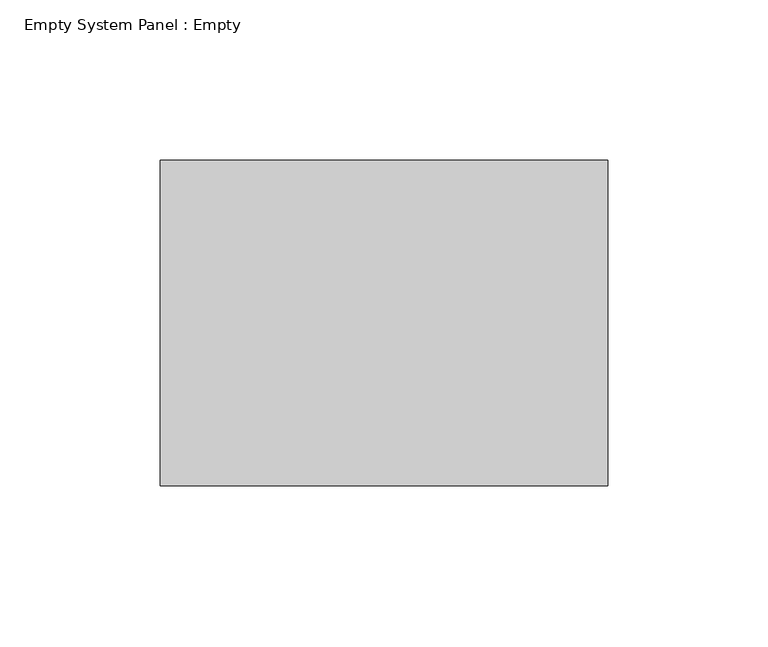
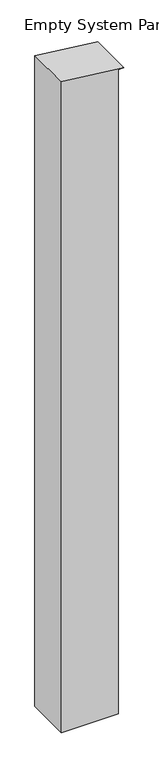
"""IFC4 building model written with IfcOpenShell, lengths in millimetres: plate geometry, Empty System Panel : Empty."""

from ifc_helpers import new_model, si_unit, frame, origin, place, context, project, spatial, polyline, outline, extrude, source, transform, mapped, element, save


def empty_system_panel_empty_16913383(model_context):
    return source(origin(), model_context, "Body", "SweptSolid", [
        extrude(outline(polyline([(0.0, -69.85), (0.0, 57.15), (1519.7509294, 57.15), (1519.7509294, 69.85), (1535.3761194, -69.85), (0.0, -69.85)])), frame((0.0, -50.8, 0.0), z_axis=(0.0, 1.0, 0.0), x_axis=(0.0, 0.0, 1.0)), (0.0, 0.0, 1.0), 101.6),
    ])


if __name__ == "__main__":
    model = new_model("IFC4")
    model_context = context("Model", 3, world=origin())
    ifc_project = project(units=[si_unit("LENGTHUNIT", "METRE", prefix="MILLI")], contexts=[model_context])
    site = spatial("IfcSite", under=ifc_project)
    building = spatial("IfcBuilding", under=site)
    placement = place(None, origin())
    empty_system_panel_empty_shape = empty_system_panel_empty_16913383(model_context)
    element("IfcPlate", 1, ObjectType="Empty System Panel : Empty", at=placement, inside=building, context=model_context, shape_type="MappedRepresentation", body=[
        mapped(empty_system_panel_empty_shape, transform((0.0, 0.0, 0.0), x_axis=(1.0, 0.0, 0.0), y_axis=(0.0, 1.0, 0.0), z_axis=(0.0, 0.0, 1.0))),
    ])
    save(model, "model.ifc")
